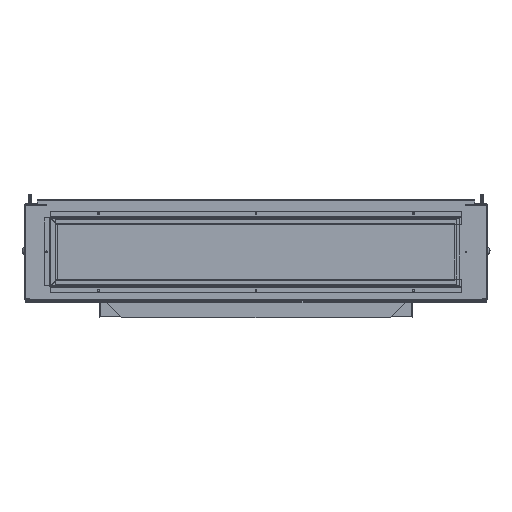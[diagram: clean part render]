
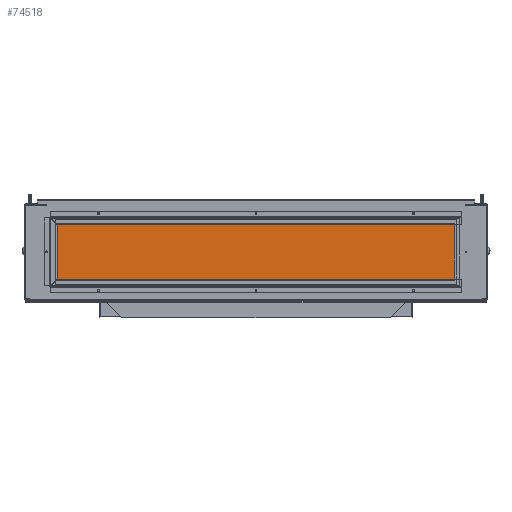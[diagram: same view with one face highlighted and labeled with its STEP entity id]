
A CAD part, front view. The second image highlights one B-rep face of the part: STEP entity #74518.
In plain terms, the highlighted planar face has unit normal (0, -1, 0).
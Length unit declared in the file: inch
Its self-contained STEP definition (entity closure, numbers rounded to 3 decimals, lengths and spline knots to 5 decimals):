
#1827 = CARTESIAN_POINT ( 'NONE',  ( 1.98639, -33.14741, 7.18674 ) ) ;
#6316 = LINE ( 'NONE', #195365, #119578 ) ;
#6347 = CARTESIAN_POINT ( 'NONE',  ( -17.01361, -33.14741, 9.87424 ) ) ;
#15678 = VECTOR ( 'NONE', #21859, 39.37008 ) ;
#17249 = DIRECTION ( 'NONE',  ( -1., 0., 0. ) ) ;
#21859 = DIRECTION ( 'NONE',  ( 0., 0., 1. ) ) ;
#24974 = DIRECTION ( 'NONE',  ( 1., 0., 0. ) ) ;
#30068 = VERTEX_POINT ( 'NONE', #88918 ) ;
#33719 = ORIENTED_EDGE ( 'NONE', *, *, #182296, .F. ) ;
#44733 = VERTEX_POINT ( 'NONE', #69911 ) ;
#46802 = PLANE ( 'NONE',  #133398 ) ;
#49562 = VECTOR ( 'NONE', #149216, 39.37008 ) ;
#52321 = ORIENTED_EDGE ( 'NONE', *, *, #173944, .F. ) ;
#53070 = VECTOR ( 'NONE', #159353, 39.37008 ) ;
#55206 = CARTESIAN_POINT ( 'NONE',  ( -17.01361, -33.14741, 9.87424 ) ) ;
#69911 = CARTESIAN_POINT ( 'NONE',  ( -17.01361, -33.14741, 4.49924 ) ) ;
#74518 = ADVANCED_FACE ( 'NONE', ( #102166 ), #46802, .F. ) ;
#75894 = EDGE_LOOP ( 'NONE', ( #33719, #166516, #52321, #93557 ) ) ;
#83658 = EDGE_CURVE ( 'NONE', #97227, #44733, #175953, .T. ) ;
#88918 = CARTESIAN_POINT ( 'NONE',  ( 20.98639, -33.14742, 9.87424 ) ) ;
#93557 = ORIENTED_EDGE ( 'NONE', *, *, #83658, .F. ) ;
#97227 = VERTEX_POINT ( 'NONE', #102961 ) ;
#102166 = FACE_OUTER_BOUND ( 'NONE', #75894, .T. ) ;
#102961 = CARTESIAN_POINT ( 'NONE',  ( 20.98639, -33.14742, 4.49924 ) ) ;
#109540 = DIRECTION ( 'NONE',  ( 0., 1., 0. ) ) ;
#111219 = EDGE_CURVE ( 'NONE', #172813, #30068, #6316, .T. ) ;
#119578 = VECTOR ( 'NONE', #24974, 39.37008 ) ;
#133398 = AXIS2_PLACEMENT_3D ( 'NONE', #1827, #109540, #17249 ) ;
#138509 = LINE ( 'NONE', #6347, #15678 ) ;
#143819 = CARTESIAN_POINT ( 'NONE',  ( -17.01361, -33.14741, 4.49924 ) ) ;
#149216 = DIRECTION ( 'NONE',  ( 0., 0., -1. ) ) ;
#159353 = DIRECTION ( 'NONE',  ( -1., 0., 0. ) ) ;
#166516 = ORIENTED_EDGE ( 'NONE', *, *, #111219, .F. ) ;
#167620 = LINE ( 'NONE', #196426, #49562 ) ;
#172813 = VERTEX_POINT ( 'NONE', #55206 ) ;
#173944 = EDGE_CURVE ( 'NONE', #44733, #172813, #138509, .T. ) ;
#175953 = LINE ( 'NONE', #143819, #53070 ) ;
#182296 = EDGE_CURVE ( 'NONE', #30068, #97227, #167620, .T. ) ;
#195365 = CARTESIAN_POINT ( 'NONE',  ( -17.01361, -33.14741, 9.87424 ) ) ;
#196426 = CARTESIAN_POINT ( 'NONE',  ( 20.98639, -33.14742, 9.87424 ) ) ;
